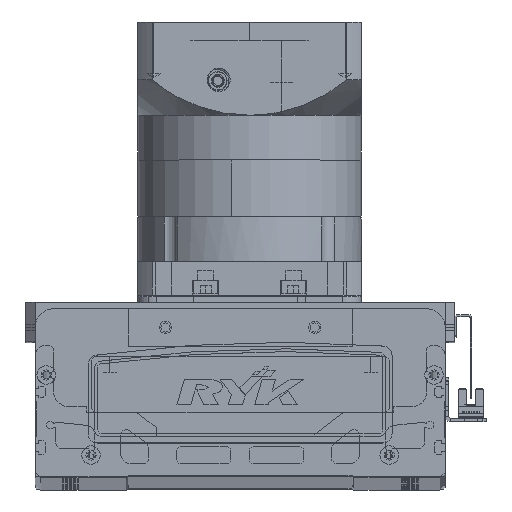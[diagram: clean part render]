
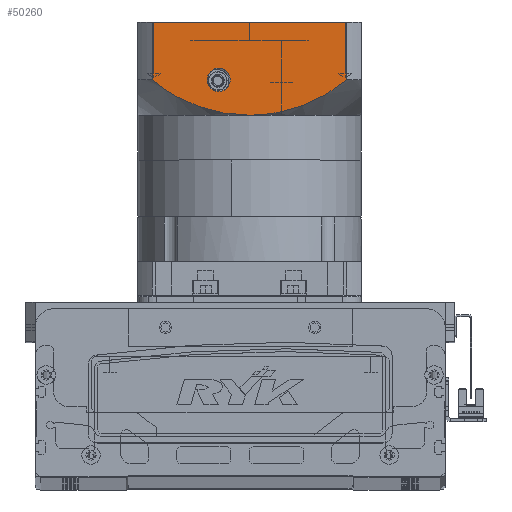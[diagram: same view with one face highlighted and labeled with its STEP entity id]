
A CAD part, top view. The second image highlights one B-rep face of the part: STEP entity #50260.
In plain terms, the highlighted planar face has unit normal (0, 0, 1) as drawn and (0, -1, 0) by its records, which use the part's own axes.
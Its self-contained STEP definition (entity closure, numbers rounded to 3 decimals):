
#102 = EDGE_CURVE ( 'NONE', #4956, #37966, #31823, .T. ) ;
#257 = DIRECTION ( 'NONE',  ( 0., -1., 0. ) ) ;
#1615 = CARTESIAN_POINT ( 'NONE',  ( -44.656, -60., -113.73 ) ) ;
#2393 = B_SPLINE_CURVE_WITH_KNOTS ( 'NONE', 3,
 ( #11374, #80496, #23991, #61016, #5082, #18217, #43242, #67252, #29972, #55262, #67525, #42183, #5881, #48715, #54990, #68048, #4800, #10830 ),
 .UNSPECIFIED., .F., .F.,
 ( 4, 2, 2, 2, 2, 2, 2, 2, 4 ),
 ( 0., 0.014, 0.018, 0.021, 0.028, 0.042, 0.046, 0.05, 0.057 ),
 .UNSPECIFIED. ) ;
#3718 = CARTESIAN_POINT ( 'NONE',  ( 52.156, -60., -150.5 ) ) ;
#3984 = ORIENTED_EDGE ( 'NONE', *, *, #33128, .T. ) ;
#4522 = DIRECTION ( 'NONE',  ( 0., 0., 1. ) ) ;
#4800 = CARTESIAN_POINT ( 'NONE',  ( 50.338, -60., -117.969 ) ) ;
#4869 = AXIS2_PLACEMENT_3D ( 'NONE', #18635, #257, #68725 ) ;
#4956 = VERTEX_POINT ( 'NONE', #78554 ) ;
#5082 = CARTESIAN_POINT ( 'NONE',  ( 16.426, -60., -102.169 ) ) ;
#5881 = CARTESIAN_POINT ( 'NONE',  ( 42.555, -60., -112.543 ) ) ;
#6024 = EDGE_LOOP ( 'NONE', ( #3984, #59513 ) ) ;
#6482 = CARTESIAN_POINT ( 'NONE',  ( -2.376, -60., -100.5 ) ) ;
#7070 = CARTESIAN_POINT ( 'NONE',  ( -52.156, -60., -119.5 ) ) ;
#7463 = AXIS2_PLACEMENT_3D ( 'NONE', #31401, #80300, #75941 ) ;
#7528 = B_SPLINE_CURVE_WITH_KNOTS ( 'NONE', 3,
 ( #77403, #46627, #1615, #27068, #9048, #57645, #46152, #15121, #21406, #27664, #62151, #24319, #49322, #30825, #37568, #62416, #6482, #50110 ),
 .UNSPECIFIED., .F., .F.,
 ( 4, 2, 2, 2, 2, 2, 2, 2, 4 ),
 ( 0., 0.014, 0.018, 0.021, 0.028, 0.042, 0.046, 0.05, 0.057 ),
 .UNSPECIFIED. ) ;
#9048 = CARTESIAN_POINT ( 'NONE',  ( -38.51, -60., -110.207 ) ) ;
#9059 = VECTOR ( 'NONE', #80019, 1000. ) ;
#10830 = CARTESIAN_POINT ( 'NONE',  ( 52.156, -60., -119.5 ) ) ;
#11336 = ORIENTED_EDGE ( 'NONE', *, *, #51052, .T. ) ;
#11374 = CARTESIAN_POINT ( 'NONE',  ( 0., -60., -100.5 ) ) ;
#11707 = LINE ( 'NONE', #68280, #41959 ) ;
#12672 = CARTESIAN_POINT ( 'NONE',  ( 16.5, -60., -125.75 ) ) ;
#12968 = CARTESIAN_POINT ( 'NONE',  ( 16.5, -60., -119.5 ) ) ;
#15121 = CARTESIAN_POINT ( 'NONE',  ( -32.118, -60., -107.084 ) ) ;
#18217 = CARTESIAN_POINT ( 'NONE',  ( 18.739, -60., -102.681 ) ) ;
#18635 = CARTESIAN_POINT ( 'NONE',  ( -60., -60., -150.5 ) ) ;
#18906 = LINE ( 'NONE', #73820, #9059 ) ;
#21377 = VERTEX_POINT ( 'NONE', #50151 ) ;
#21406 = CARTESIAN_POINT ( 'NONE',  ( -29.939, -60., -106.183 ) ) ;
#23991 = CARTESIAN_POINT ( 'NONE',  ( 9.454, -60., -100.914 ) ) ;
#24319 = CARTESIAN_POINT ( 'NONE',  ( -12.993, -60., -101.537 ) ) ;
#24922 = CARTESIAN_POINT ( 'NONE',  ( 52.156, -60., -150.5 ) ) ;
#25576 = DIRECTION ( 'NONE',  ( 0., 1., 0. ) ) ;
#26115 = FACE_BOUND ( 'NONE', #6024, .T. ) ;
#27068 = CARTESIAN_POINT ( 'NONE',  ( -39.546, -60., -110.776 ) ) ;
#27341 = CARTESIAN_POINT ( 'NONE',  ( -52.156, -60., -150.5 ) ) ;
#27664 = CARTESIAN_POINT ( 'NONE',  ( -23.319, -60., -103.777 ) ) ;
#27904 = VECTOR ( 'NONE', #4522, 1000. ) ;
#29972 = CARTESIAN_POINT ( 'NONE',  ( 25.577, -60., -104.596 ) ) ;
#30483 = ORIENTED_EDGE ( 'NONE', *, *, #56064, .F. ) ;
#30825 = CARTESIAN_POINT ( 'NONE',  ( -9.477, -60., -101.046 ) ) ;
#31401 = CARTESIAN_POINT ( 'NONE',  ( 16.5, -60., -119.5 ) ) ;
#31823 = CIRCLE ( 'NONE', #54522, 6.25 ) ;
#32792 = ORIENTED_EDGE ( 'NONE', *, *, #36344, .F. ) ;
#33128 = EDGE_CURVE ( 'NONE', #37966, #4956, #49704, .T. ) ;
#36299 = CARTESIAN_POINT ( 'NONE',  ( 52.156, -60., -119.5 ) ) ;
#36344 = EDGE_CURVE ( 'NONE', #77124, #21377, #7528, .T. ) ;
#37467 = DIRECTION ( 'NONE',  ( 0., 0., 1. ) ) ;
#37568 = CARTESIAN_POINT ( 'NONE',  ( -8.294, -60., -100.916 ) ) ;
#37966 = VERTEX_POINT ( 'NONE', #12672 ) ;
#41959 = VECTOR ( 'NONE', #37467, 1000. ) ;
#42183 = CARTESIAN_POINT ( 'NONE',  ( 41.545, -60., -111.931 ) ) ;
#43242 = CARTESIAN_POINT ( 'NONE',  ( 19.894, -60., -102.964 ) ) ;
#46152 = CARTESIAN_POINT ( 'NONE',  ( -35.342, -60., -108.587 ) ) ;
#46594 = ORIENTED_EDGE ( 'NONE', *, *, #51103, .F. ) ;
#46627 = CARTESIAN_POINT ( 'NONE',  ( -48.52, -60., -116.438 ) ) ;
#48715 = CARTESIAN_POINT ( 'NONE',  ( 44.553, -60., -113.817 ) ) ;
#48880 = ORIENTED_EDGE ( 'NONE', *, *, #77605, .T. ) ;
#49322 = CARTESIAN_POINT ( 'NONE',  ( -11.825, -60., -101.356 ) ) ;
#49669 = VERTEX_POINT ( 'NONE', #27341 ) ;
#49704 = CIRCLE ( 'NONE', #7463, 6.25 ) ;
#50110 = CARTESIAN_POINT ( 'NONE',  ( 0., -60., -100.5 ) ) ;
#50151 = CARTESIAN_POINT ( 'NONE',  ( 0., -60., -100.5 ) ) ;
#50260 = ADVANCED_FACE ( 'NONE', ( #77701, #26115 ), #67669, .T. ) ;
#51052 = EDGE_CURVE ( 'NONE', #56102, #75299, #72743, .T. ) ;
#51103 = EDGE_CURVE ( 'NONE', #21377, #75299, #2393, .T. ) ;
#54522 = AXIS2_PLACEMENT_3D ( 'NONE', #12968, #25576, #55799 ) ;
#54990 = CARTESIAN_POINT ( 'NONE',  ( 45.542, -60., -114.478 ) ) ;
#55262 = CARTESIAN_POINT ( 'NONE',  ( 32.196, -60., -107.007 ) ) ;
#55799 = DIRECTION ( 'NONE',  ( 0., 0., -1. ) ) ;
#56064 = EDGE_CURVE ( 'NONE', #49669, #77124, #11707, .T. ) ;
#56102 = VERTEX_POINT ( 'NONE', #24922 ) ;
#57645 = CARTESIAN_POINT ( 'NONE',  ( -36.409, -60., -109.113 ) ) ;
#59513 = ORIENTED_EDGE ( 'NONE', *, *, #102, .T. ) ;
#61016 = CARTESIAN_POINT ( 'NONE',  ( 15.267, -60., -101.938 ) ) ;
#62151 = CARTESIAN_POINT ( 'NONE',  ( -18.792, -60., -102.562 ) ) ;
#62416 = CARTESIAN_POINT ( 'NONE',  ( -4.747, -60., -100.604 ) ) ;
#67252 = CARTESIAN_POINT ( 'NONE',  ( 23.329, -60., -103.886 ) ) ;
#67525 = CARTESIAN_POINT ( 'NONE',  ( 36.444, -60., -108.986 ) ) ;
#67669 = PLANE ( 'NONE',  #4869 ) ;
#68048 = CARTESIAN_POINT ( 'NONE',  ( 48.457, -60., -116.522 ) ) ;
#68280 = CARTESIAN_POINT ( 'NONE',  ( -52.156, -60., -97.5 ) ) ;
#68725 = DIRECTION ( 'NONE',  ( 1., 0., 0. ) ) ;
#72213 = EDGE_LOOP ( 'NONE', ( #30483, #48880, #11336, #46594, #32792 ) ) ;
#72743 = LINE ( 'NONE', #3718, #27904 ) ;
#73820 = CARTESIAN_POINT ( 'NONE',  ( -60., -60., -150.5 ) ) ;
#75299 = VERTEX_POINT ( 'NONE', #36299 ) ;
#75941 = DIRECTION ( 'NONE',  ( 0., 0., -1. ) ) ;
#77124 = VERTEX_POINT ( 'NONE', #7070 ) ;
#77403 = CARTESIAN_POINT ( 'NONE',  ( -52.156, -60., -119.5 ) ) ;
#77605 = EDGE_CURVE ( 'NONE', #49669, #56102, #18906, .T. ) ;
#77701 = FACE_OUTER_BOUND ( 'NONE', #72213, .T. ) ;
#78554 = CARTESIAN_POINT ( 'NONE',  ( 16.5, -60., -113.25 ) ) ;
#80019 = DIRECTION ( 'NONE',  ( 1., 0., 0. ) ) ;
#80300 = DIRECTION ( 'NONE',  ( 0., 1., 0. ) ) ;
#80496 = CARTESIAN_POINT ( 'NONE',  ( 4.753, -60., -100.5 ) ) ;
